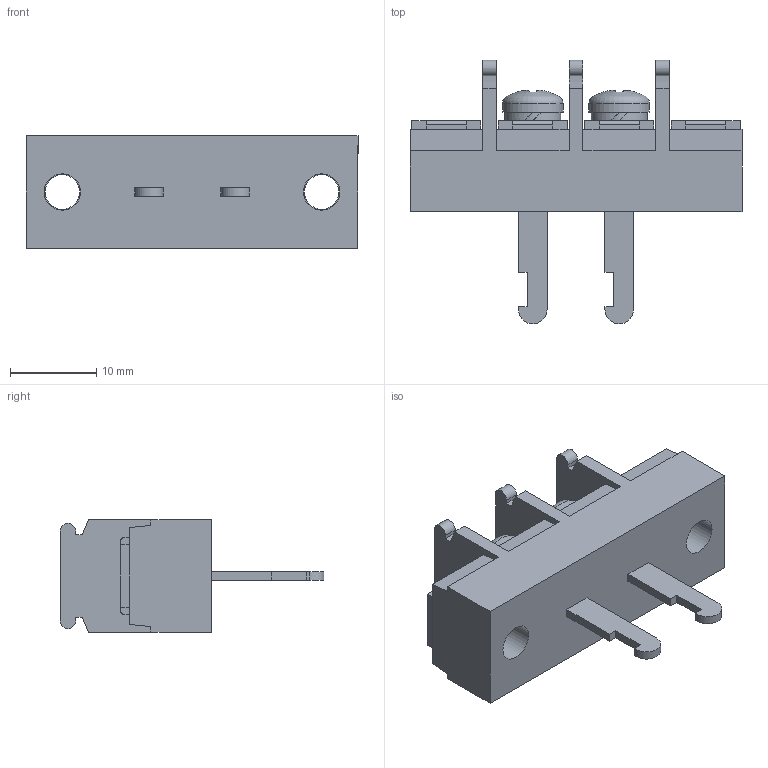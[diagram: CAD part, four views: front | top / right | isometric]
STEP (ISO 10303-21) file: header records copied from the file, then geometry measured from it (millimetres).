
FILE_DESCRIPTION(/* description */ ('Alibre Inc.'),/* implementation_level */ '2;1');
FILE_NAME(/* name */ 'export0',/* time_stamp */ '2015-10-17T19:09:46+09:00',/* author */ (''),/* organization */ (''),/* preprocessor_version */ 'ST-DEVELOPER v14',/* originating_system */ 'Alibre',/* authorisation */ '');
FILE_SCHEMA (('CONFIG_CONTROL_DESIGN'));
Length unit declared in the file: centimetre
Products named in the file (1): ID_1
Bounding box: 38.4 x 30.5 x 13 mm (x, y, z)
Volume: 5326.8 mm3; surface area: 3465.7 mm2
Topology: 1 solids, 17 shells, 574 faces, 1526 edges, 1016 vertices
Faces by surface type: plane 430, bspline 104, cylinder 26, cone 8, torus 4, sphere 2
Full cylindrical faces by diameter (mm): 4 x4, 4.2 x2, 6.5 x2, 7 x2
Entity records: 17227 total; most frequent: CARTESIAN_POINT 4069, ORIENTED_EDGE 3012, DIRECTION 1884, EDGE_CURVE 1506, VECTOR 1170, LINE 1170, VERTEX_POINT 1008, EDGE_LOOP 632
